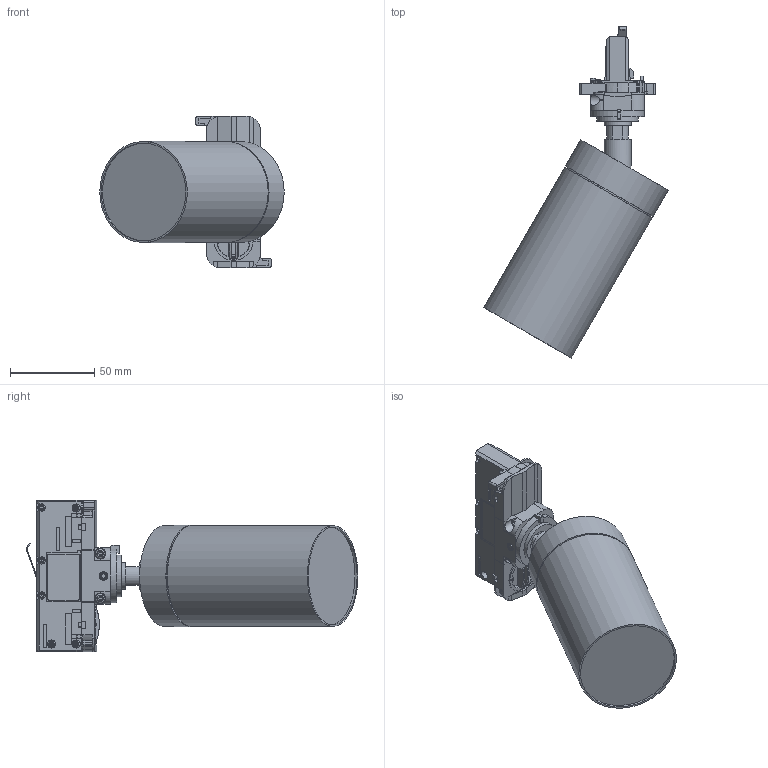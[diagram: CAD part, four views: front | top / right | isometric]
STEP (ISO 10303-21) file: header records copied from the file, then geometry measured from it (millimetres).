
FILE_DESCRIPTION(/* description */ (''),/* implementation_level */ '2;1');
FILE_NAME(/* name */ 'DOT SISTEMA 51.stp',/* time_stamp */ '2023-02-27T11:16:33+01:00',/* author */ ('n.bisotti'),/* organization */ (''),/* preprocessor_version */ 'ST-DEVELOPER v19.2',/* originating_system */ 'Autodesk Inventor 2023',/* authorisation */ '');
FILE_SCHEMA (('AUTOMOTIVE_DESIGN { 1 0 10303 214 3 1 1 }'));
Length unit declared in the file: millimetre
Products named in the file (1): Parte9
Bounding box: 109.46 x 197.02 x 89.75 mm (x, y, z)
Volume: 352791.2 mm3; surface area: 69503.9 mm2
Topology: 8 solids, 8 shells, 848 faces, 2342 edges, 1554 vertices
Faces by surface type: plane 643, cylinder 142, cone 53, torus 8, sphere 2
Full cylindrical faces by diameter (mm): 2.459 x1, 4.4 x6, 4.5 x3, 4.775 x3, 5.5 x2, 6.4 x1, 8.917 x1, 10 x1, 13 x1, 13.4 x1, 16 x2, 23.319 x1, 24.8 x1, 25 x1, 49 x1, 50 x1, 54 x1, 55.835 x1, 58 x3, 60 x2
Entity records: 28832 total; most frequent: CARTESIAN_POINT 6090, ORIENTED_EDGE 4678, DIRECTION 4332, EDGE_CURVE 2339, LINE 1784, VECTOR 1784, VERTEX_POINT 1554, AXIS2_PLACEMENT_3D 1274
